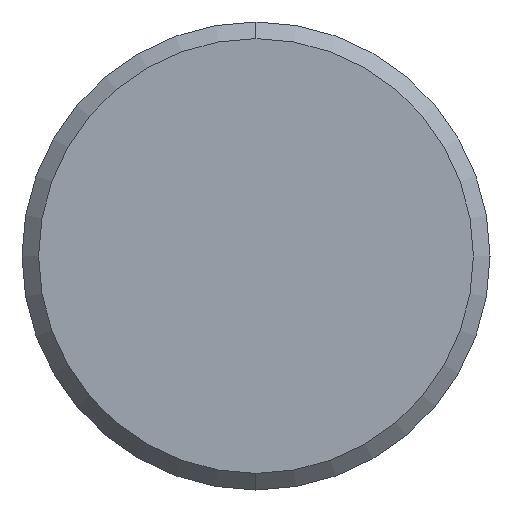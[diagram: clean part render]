
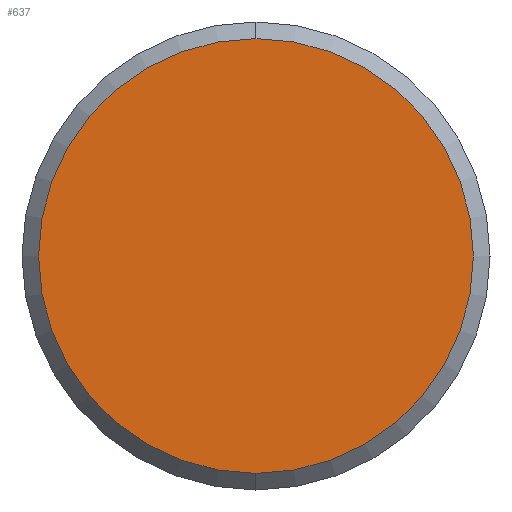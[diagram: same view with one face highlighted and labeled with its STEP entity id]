
A CAD part, left-side view. The second image highlights one B-rep face of the part: STEP entity #637.
In plain terms, the highlighted planar face has unit normal (-1, 0, 0).
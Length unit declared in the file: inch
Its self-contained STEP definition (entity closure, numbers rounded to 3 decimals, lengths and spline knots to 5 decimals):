
#6 = EDGE_CURVE ( 'NONE', #830, #866, #810, .T. ) ;
#32 = AXIS2_PLACEMENT_3D ( 'NONE', #222, #220, #219 ) ;
#75 = AXIS2_PLACEMENT_3D ( 'NONE', #988, #975, #967 ) ;
#100 = EDGE_CURVE ( 'NONE', #866, #830, #556, .T. ) ;
#144 = AXIS2_PLACEMENT_3D ( 'NONE', #256, #257, #258 ) ;
#219 = DIRECTION ( 'NONE',  ( 0., 0., -1. ) ) ;
#220 = DIRECTION ( 'NONE',  ( -1., 0., 0. ) ) ;
#222 = CARTESIAN_POINT ( 'NONE',  ( -5.07092, -0.40006, 0. ) ) ;
#243 = PLANE ( 'NONE',  #144 ) ;
#256 = CARTESIAN_POINT ( 'NONE',  ( -5.07092, -1.08376, -0.02003 ) ) ;
#257 = DIRECTION ( 'NONE',  ( -1., 0., 0. ) ) ;
#258 = DIRECTION ( 'NONE',  ( 0., 0., 1. ) ) ;
#328 = CARTESIAN_POINT ( 'NONE',  ( -5.07092, -0.40006, -0.8175 ) ) ;
#349 = CARTESIAN_POINT ( 'NONE',  ( -5.07092, -0.40006, 0.8175 ) ) ;
#393 = EDGE_LOOP ( 'NONE', ( #754, #731 ) ) ;
#484 = FACE_OUTER_BOUND ( 'NONE', #393, .T. ) ;
#556 = CIRCLE ( 'NONE', #32, 0.8175 ) ;
#637 = ADVANCED_FACE ( 'NONE', ( #484 ), #243, .T. ) ;
#731 = ORIENTED_EDGE ( 'NONE', *, *, #100, .T. ) ;
#754 = ORIENTED_EDGE ( 'NONE', *, *, #6, .T. ) ;
#810 = CIRCLE ( 'NONE', #75, 0.8175 ) ;
#830 = VERTEX_POINT ( 'NONE', #328 ) ;
#866 = VERTEX_POINT ( 'NONE', #349 ) ;
#967 = DIRECTION ( 'NONE',  ( 0., 0., -1. ) ) ;
#975 = DIRECTION ( 'NONE',  ( -1., 0., 0. ) ) ;
#988 = CARTESIAN_POINT ( 'NONE',  ( -5.07092, -0.40006, 0. ) ) ;
